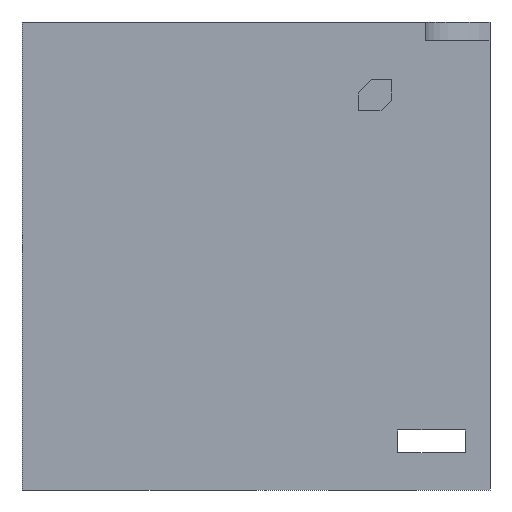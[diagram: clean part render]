
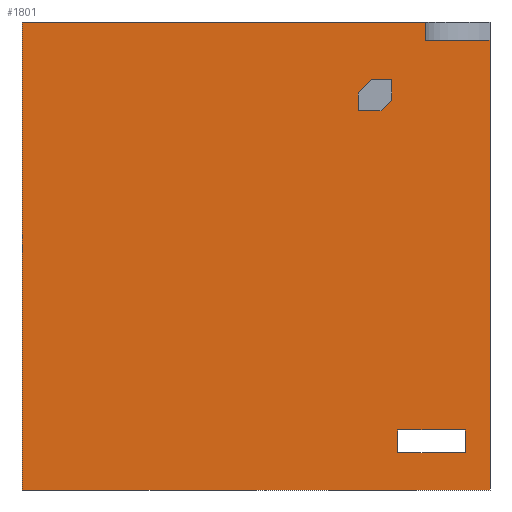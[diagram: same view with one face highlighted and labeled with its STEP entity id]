
A CAD part, left-side view. The second image highlights one B-rep face of the part: STEP entity #1801.
In plain terms, the highlighted planar face has unit normal (-1, 0, 0).
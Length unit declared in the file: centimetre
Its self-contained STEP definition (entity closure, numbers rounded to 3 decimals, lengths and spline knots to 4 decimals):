
#8 = VECTOR ( 'NONE', #883, 100. ) ;
#27 = EDGE_LOOP ( 'NONE', ( #752, #210, #1385, #1458 ) ) ;
#35 = FACE_BOUND ( 'NONE', #1819, .T. ) ;
#43 = VECTOR ( 'NONE', #1262, 100. ) ;
#60 = CARTESIAN_POINT ( 'NONE',  ( 0., 253.3911, 876.5065 ) ) ;
#77 = EDGE_CURVE ( 'NONE', #241, #1236, #1400, .T. ) ;
#82 = LINE ( 'NONE', #665, #1864 ) ;
#99 = LINE ( 'NONE', #1681, #647 ) ;
#101 = EDGE_CURVE ( 'NONE', #1337, #319, #1382, .T. ) ;
#103 = CARTESIAN_POINT ( 'NONE',  ( 0., 232.8769, 810.1277 ) ) ;
#145 = VERTEX_POINT ( 'NONE', #204 ) ;
#147 = DIRECTION ( 'NONE',  ( 0., 0., -1. ) ) ;
#149 = LINE ( 'NONE', #163, #1502 ) ;
#163 = CARTESIAN_POINT ( 'NONE',  ( 0., 1000., 1000. ) ) ;
#169 = DIRECTION ( 'NONE',  ( 0., 0., 1. ) ) ;
#170 = CARTESIAN_POINT ( 'NONE',  ( 0., 1000., 1000. ) ) ;
#173 = ORIENTED_EDGE ( 'NONE', *, *, #1769, .F. ) ;
#175 = CARTESIAN_POINT ( 'NONE',  ( 0., 138.5498, 1000. ) ) ;
#185 = VECTOR ( 'NONE', #464, 100. ) ;
#190 = PLANE ( 'NONE',  #406 ) ;
#204 = CARTESIAN_POINT ( 'NONE',  ( 0., 52.7315, 79.5451 ) ) ;
#210 = ORIENTED_EDGE ( 'NONE', *, *, #442, .F. ) ;
#237 = EDGE_CURVE ( 'NONE', #508, #1724, #339, .T. ) ;
#241 = VERTEX_POINT ( 'NONE', #1486 ) ;
#264 = ORIENTED_EDGE ( 'NONE', *, *, #1352, .F. ) ;
#285 = VERTEX_POINT ( 'NONE', #1548 ) ;
#295 = VERTEX_POINT ( 'NONE', #1538 ) ;
#302 = CARTESIAN_POINT ( 'NONE',  ( 0., 196.9604, 79.5451 ) ) ;
#319 = VERTEX_POINT ( 'NONE', #1843 ) ;
#325 = ORIENTED_EDGE ( 'NONE', *, *, #77, .F. ) ;
#330 = CARTESIAN_POINT ( 'NONE',  ( 0., 138.5498, 961.0514 ) ) ;
#334 = FACE_OUTER_BOUND ( 'NONE', #457, .T. ) ;
#339 = LINE ( 'NONE', #357, #1869 ) ;
#357 = CARTESIAN_POINT ( 'NONE',  ( 0., 281.4485, 848.449 ) ) ;
#361 = DIRECTION ( 'NONE',  ( 0., 1., 0. ) ) ;
#406 = AXIS2_PLACEMENT_3D ( 'NONE', #1498, #1356, #1743 ) ;
#429 = VECTOR ( 'NONE', #1761, 100. ) ;
#436 = LINE ( 'NONE', #170, #1664 ) ;
#442 = EDGE_CURVE ( 'NONE', #1493, #145, #99, .T. ) ;
#457 = EDGE_LOOP ( 'NONE', ( #485, #1820, #173, #652, #948, #1272 ) ) ;
#464 = DIRECTION ( 'NONE',  ( 0., 0.707, -0.707 ) ) ;
#485 = ORIENTED_EDGE ( 'NONE', *, *, #694, .F. ) ;
#506 = LINE ( 'NONE', #1516, #1046 ) ;
#508 = VERTEX_POINT ( 'NONE', #712 ) ;
#529 = LINE ( 'NONE', #555, #1273 ) ;
#535 = LINE ( 'NONE', #1702, #1625 ) ;
#555 = CARTESIAN_POINT ( 'NONE',  ( 0., 1000., 961.0514 ) ) ;
#592 = CARTESIAN_POINT ( 'NONE',  ( 0., 52.7315, 79.5451 ) ) ;
#639 = EDGE_CURVE ( 'NONE', #1768, #1489, #436, .T. ) ;
#647 = VECTOR ( 'NONE', #960, 100. ) ;
#651 = ORIENTED_EDGE ( 'NONE', *, *, #237, .F. ) ;
#652 = ORIENTED_EDGE ( 'NONE', *, *, #639, .T. ) ;
#658 = DIRECTION ( 'NONE',  ( 0., 0., 1. ) ) ;
#665 = CARTESIAN_POINT ( 'NONE',  ( 0., 1000., 0. ) ) ;
#677 = CARTESIAN_POINT ( 'NONE',  ( 0., 232.8769, 810.1277 ) ) ;
#694 = EDGE_CURVE ( 'NONE', #1841, #285, #529, .T. ) ;
#712 = CARTESIAN_POINT ( 'NONE',  ( 0., 281.4485, 848.449 ) ) ;
#729 = ORIENTED_EDGE ( 'NONE', *, *, #101, .F. ) ;
#734 = CARTESIAN_POINT ( 'NONE',  ( 0., 196.9604, 79.5451 ) ) ;
#735 = CARTESIAN_POINT ( 'NONE',  ( 0., 138.5498, 961.0514 ) ) ;
#752 = ORIENTED_EDGE ( 'NONE', *, *, #962, .F. ) ;
#756 = CARTESIAN_POINT ( 'NONE',  ( 0., 1000., 1000. ) ) ;
#773 = DIRECTION ( 'NONE',  ( 0., 1., 0. ) ) ;
#835 = EDGE_CURVE ( 'NONE', #1236, #508, #1369, .T. ) ;
#883 = DIRECTION ( 'NONE',  ( 0., 0., -1. ) ) ;
#899 = EDGE_CURVE ( 'NONE', #1841, #1222, #1643, .T. ) ;
#948 = ORIENTED_EDGE ( 'NONE', *, *, #1597, .T. ) ;
#960 = DIRECTION ( 'NONE',  ( 0., -1., 0. ) ) ;
#962 = EDGE_CURVE ( 'NONE', #145, #295, #1503, .T. ) ;
#998 = VERTEX_POINT ( 'NONE', #1210 ) ;
#1003 = DIRECTION ( 'NONE',  ( 0., -1., 0. ) ) ;
#1046 = VECTOR ( 'NONE', #1540, 100. ) ;
#1059 = FACE_BOUND ( 'NONE', #27, .T. ) ;
#1086 = VECTOR ( 'NONE', #1003, 100. ) ;
#1130 = CARTESIAN_POINT ( 'NONE',  ( 0., 1000., 0. ) ) ;
#1142 = LINE ( 'NONE', #1286, #1086 ) ;
#1144 = CARTESIAN_POINT ( 'NONE',  ( 0., 196.9604, 128.2484 ) ) ;
#1160 = DIRECTION ( 'NONE',  ( 0., -1., 0. ) ) ;
#1166 = VECTOR ( 'NONE', #773, 100. ) ;
#1179 = VERTEX_POINT ( 'NONE', #1144 ) ;
#1183 = CARTESIAN_POINT ( 'NONE',  ( 0., 281.4485, 810.1277 ) ) ;
#1210 = CARTESIAN_POINT ( 'NONE',  ( 0., 0., 0. ) ) ;
#1222 = VERTEX_POINT ( 'NONE', #175 ) ;
#1236 = VERTEX_POINT ( 'NONE', #1348 ) ;
#1262 = DIRECTION ( 'NONE',  ( 0., -0.707, 0.707 ) ) ;
#1272 = ORIENTED_EDGE ( 'NONE', *, *, #1847, .F. ) ;
#1273 = VECTOR ( 'NONE', #1849, 100. ) ;
#1286 = CARTESIAN_POINT ( 'NONE',  ( 0., 281.4485, 810.1277 ) ) ;
#1328 = LINE ( 'NONE', #1610, #1166 ) ;
#1337 = VERTEX_POINT ( 'NONE', #103 ) ;
#1348 = CARTESIAN_POINT ( 'NONE',  ( 0., 253.3911, 876.5065 ) ) ;
#1352 = EDGE_CURVE ( 'NONE', #319, #241, #535, .T. ) ;
#1356 = DIRECTION ( 'NONE',  ( 1., 0., 0. ) ) ;
#1369 = LINE ( 'NONE', #60, #185 ) ;
#1382 = LINE ( 'NONE', #677, #43 ) ;
#1385 = ORIENTED_EDGE ( 'NONE', *, *, #1673, .F. ) ;
#1400 = LINE ( 'NONE', #1665, #1719 ) ;
#1458 = ORIENTED_EDGE ( 'NONE', *, *, #1770, .F. ) ;
#1486 = CARTESIAN_POINT ( 'NONE',  ( 0., 209.9607, 876.5065 ) ) ;
#1489 = VERTEX_POINT ( 'NONE', #1130 ) ;
#1491 = EDGE_CURVE ( 'NONE', #1724, #1337, #1142, .T. ) ;
#1493 = VERTEX_POINT ( 'NONE', #734 ) ;
#1498 = CARTESIAN_POINT ( 'NONE',  ( 0., 1000., 1000. ) ) ;
#1502 = VECTOR ( 'NONE', #1160, 100. ) ;
#1503 = LINE ( 'NONE', #592, #1779 ) ;
#1516 = CARTESIAN_POINT ( 'NONE',  ( 0., 0., 1000. ) ) ;
#1538 = CARTESIAN_POINT ( 'NONE',  ( 0., 52.7315, 128.2484 ) ) ;
#1540 = DIRECTION ( 'NONE',  ( 0., 0., -1. ) ) ;
#1548 = CARTESIAN_POINT ( 'NONE',  ( 0., 0., 961.0514 ) ) ;
#1597 = EDGE_CURVE ( 'NONE', #1489, #998, #82, .T. ) ;
#1605 = LINE ( 'NONE', #302, #8 ) ;
#1610 = CARTESIAN_POINT ( 'NONE',  ( 0., 52.7315, 128.2484 ) ) ;
#1625 = VECTOR ( 'NONE', #658, 100. ) ;
#1627 = DIRECTION ( 'NONE',  ( 0., 0., -1. ) ) ;
#1634 = ORIENTED_EDGE ( 'NONE', *, *, #835, .F. ) ;
#1643 = LINE ( 'NONE', #330, #429 ) ;
#1664 = VECTOR ( 'NONE', #147, 100. ) ;
#1665 = CARTESIAN_POINT ( 'NONE',  ( 0., 209.9607, 876.5065 ) ) ;
#1673 = EDGE_CURVE ( 'NONE', #1179, #1493, #1605, .T. ) ;
#1681 = CARTESIAN_POINT ( 'NONE',  ( 0., 52.7315, 79.5451 ) ) ;
#1702 = CARTESIAN_POINT ( 'NONE',  ( 0., 209.9607, 833.044 ) ) ;
#1719 = VECTOR ( 'NONE', #361, 100. ) ;
#1724 = VERTEX_POINT ( 'NONE', #1183 ) ;
#1743 = DIRECTION ( 'NONE',  ( 0., 0., -1. ) ) ;
#1758 = ORIENTED_EDGE ( 'NONE', *, *, #1491, .F. ) ;
#1761 = DIRECTION ( 'NONE',  ( 0., 0., 1. ) ) ;
#1768 = VERTEX_POINT ( 'NONE', #756 ) ;
#1769 = EDGE_CURVE ( 'NONE', #1768, #1222, #149, .T. ) ;
#1770 = EDGE_CURVE ( 'NONE', #295, #1179, #1328, .T. ) ;
#1779 = VECTOR ( 'NONE', #169, 100. ) ;
#1801 = ADVANCED_FACE ( 'NONE', ( #35, #1059, #334 ), #190, .F. ) ;
#1819 = EDGE_LOOP ( 'NONE', ( #1634, #325, #264, #729, #1758, #651 ) ) ;
#1820 = ORIENTED_EDGE ( 'NONE', *, *, #899, .T. ) ;
#1824 = DIRECTION ( 'NONE',  ( 0., -1., 0. ) ) ;
#1841 = VERTEX_POINT ( 'NONE', #735 ) ;
#1843 = CARTESIAN_POINT ( 'NONE',  ( 0., 209.9607, 833.044 ) ) ;
#1847 = EDGE_CURVE ( 'NONE', #285, #998, #506, .T. ) ;
#1849 = DIRECTION ( 'NONE',  ( 0., -1., 0. ) ) ;
#1864 = VECTOR ( 'NONE', #1824, 100. ) ;
#1869 = VECTOR ( 'NONE', #1627, 100. ) ;
